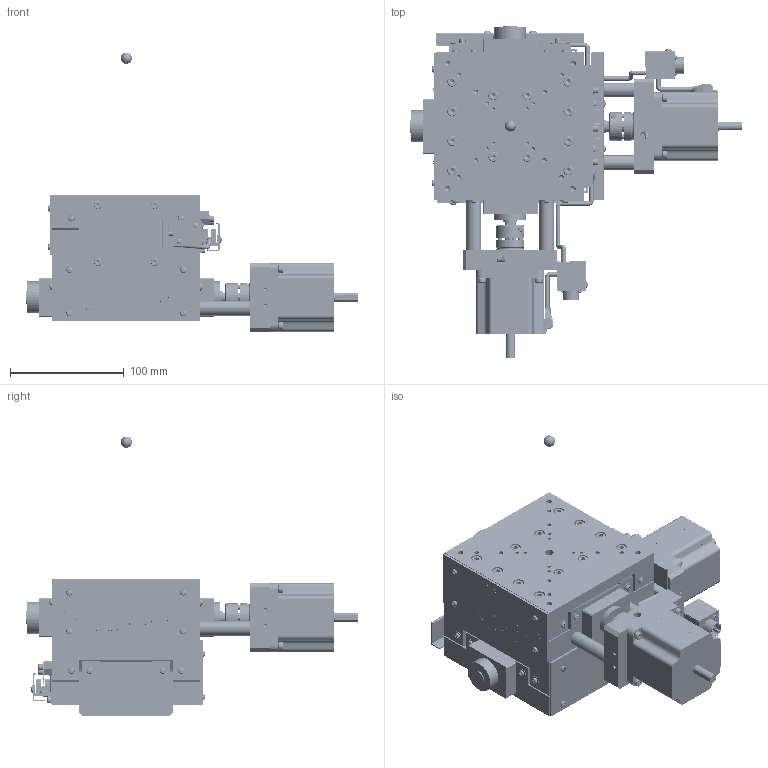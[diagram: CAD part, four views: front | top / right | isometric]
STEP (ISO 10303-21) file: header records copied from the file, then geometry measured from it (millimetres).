
FILE_DESCRIPTION (( 'STEP AP203' ), '1' );
FILE_NAME ('SA13A-RS01.STEP', '2019-02-26T08:41:35', ( '' ), ( '' ), 'SwSTEP 2.0', 'SolidWorks 2018', '' );
FILE_SCHEMA (( 'CONFIG_CONTROL_DESIGN' ));
Products named in the file (5): SA13A-RS01; table; base; rotation center; second table
Assembly tree (4 placements, depth 2):
  SA13A-RS01
    second table
    table
    base
    rotation center
Bounding box: 291.5 x 291.5 x 245 mm (x, y, z)
Volume: 2518571.7 mm3; surface area: 388251.7 mm2
Topology: 4 solids, 8 shells, 5779 faces, 14593 edges, 9065 vertices
Faces by surface type: plane 3569, cylinder 1364, cone 632, torus 124, sphere 82, bspline 8
Entity records: 176767 total; most frequent: CARTESIAN_POINT 35262, DIRECTION 30270, ORIENTED_EDGE 28752, EDGE_CURVE 14376, AXIS2_PLACEMENT_3D 10426, VECTOR 9418, LINE 9418, VERTEX_POINT 9062
